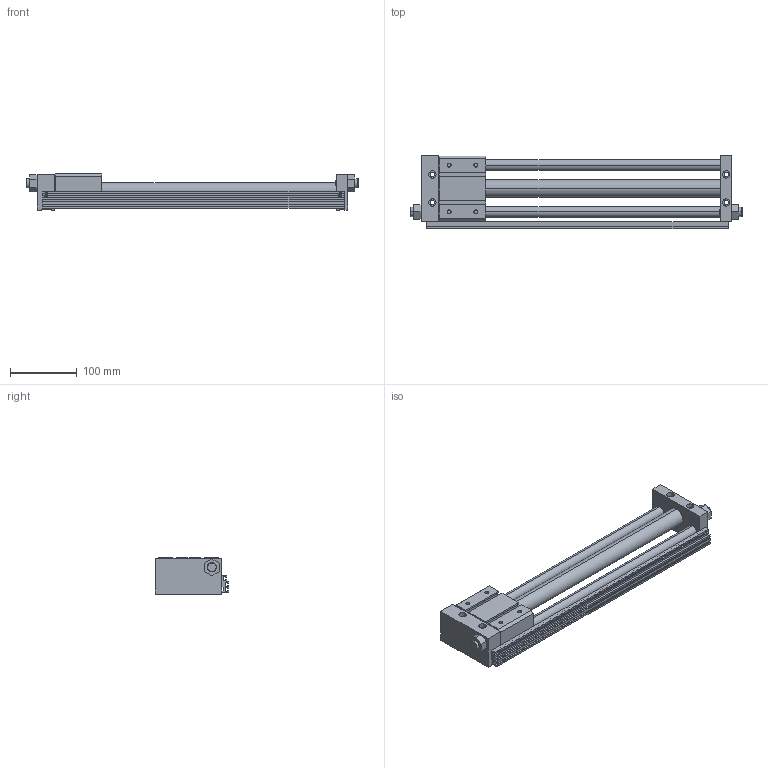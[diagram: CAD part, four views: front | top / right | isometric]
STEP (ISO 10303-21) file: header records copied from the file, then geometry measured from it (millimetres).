
FILE_DESCRIPTION((''),'2;1');
FILE_NAME('C:\Documents and Settings\Administrator\桌面\GYS\GYS25\GYSR25X350.stp','2012-03-06T11:00:09',('Administrator'),(''),'Autodesk Inventor 8','Autodesk Inventor 8','');
FILE_SCHEMA(('AUTOMOTIVE_DESIGN { 1 0 10303 214 1 1 1 1 }'));
Length unit declared in the file: millimetre
Products named in the file (3): GYSR25X350; GYS25X350; GYS25160X350
Assembly tree (2 placements, depth 2):
  GYSR25X350
    GYS25X350
    GYS25160X350
Bounding box: 497 x 110.5 x 54 mm (x, y, z)
Volume: 945482.7 mm3; surface area: 191637.3 mm2
Topology: 2 solids, 2 shells, 276 faces, 718 edges, 468 vertices
Faces by surface type: plane 154, cylinder 80, cone 32, bspline 10
Entity records: 8662 total; most frequent: CARTESIAN_POINT 1609, DIRECTION 1476, ORIENTED_EDGE 1436, EDGE_CURVE 718, VECTOR 502, LINE 502, AXIS2_PLACEMENT_3D 487, VERTEX_POINT 468
